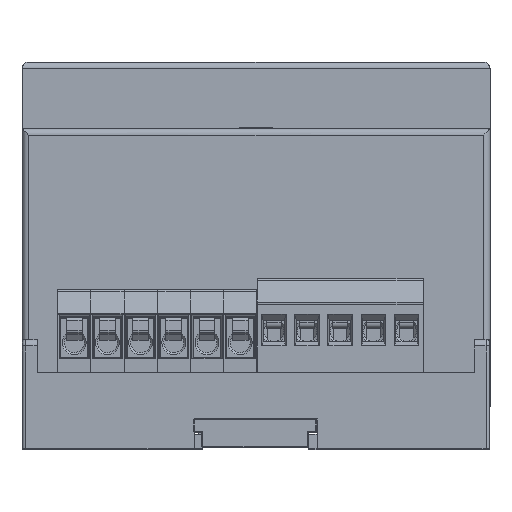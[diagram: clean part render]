
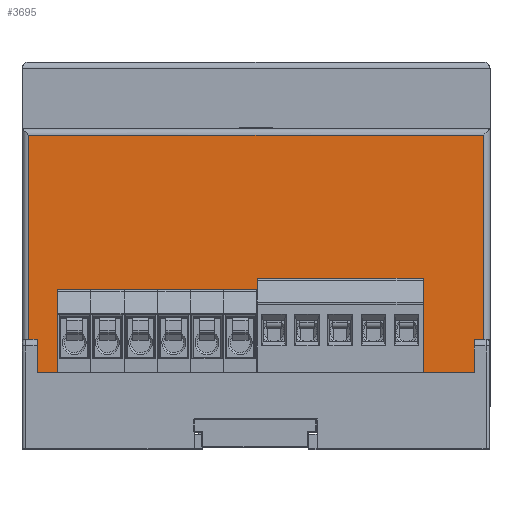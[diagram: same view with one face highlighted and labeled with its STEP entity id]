
A CAD part, top view. The second image highlights one B-rep face of the part: STEP entity #3695.
In plain terms, the highlighted planar face has unit normal (0, 0, 1).
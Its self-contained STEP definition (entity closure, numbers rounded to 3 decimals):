
#1536 = ORIENTED_EDGE ( 'NONE', *, *, #18056, .T. ) ;
#3574 = CARTESIAN_POINT ( 'NONE',  ( 1.5, -9., 0. ) ) ;
#3695 = ADVANCED_FACE ( 'NONE', ( #200549 ), #50364, .F. ) ;
#4474 = LINE ( 'NONE', #223883, #178225 ) ;
#9946 = DIRECTION ( 'NONE',  ( 1., 0., 0. ) ) ;
#10327 = LINE ( 'NONE', #204567, #152263 ) ;
#18056 = EDGE_CURVE ( 'NONE', #25531, #118730, #131753, .T. ) ;
#19963 = CARTESIAN_POINT ( 'NONE',  ( 69.5, 30.8, 0. ) ) ;
#20269 = AXIS2_PLACEMENT_3D ( 'NONE', #179845, #124129, #198490 ) ;
#21848 = VERTEX_POINT ( 'NONE', #192768 ) ;
#24740 = LINE ( 'NONE', #37317, #117550 ) ;
#25531 = VERTEX_POINT ( 'NONE', #186766 ) ;
#27021 = ORIENTED_EDGE ( 'NONE', *, *, #225393, .T. ) ;
#29689 = CARTESIAN_POINT ( 'NONE',  ( 69., -6.5, 0. ) ) ;
#29913 = VECTOR ( 'NONE', #40748, 1000. ) ;
#30640 = ORIENTED_EDGE ( 'NONE', *, *, #187016, .T. ) ;
#33120 = VECTOR ( 'NONE', #177963, 1000. ) ;
#36483 = EDGE_CURVE ( 'NONE', #118730, #42461, #166692, .T. ) ;
#37317 = CARTESIAN_POINT ( 'NONE',  ( 1., 31.8, 0. ) ) ;
#40748 = DIRECTION ( 'NONE',  ( 1., 0., 0. ) ) ;
#41963 = LINE ( 'NONE', #176886, #238960 ) ;
#42461 = VERTEX_POINT ( 'NONE', #215765 ) ;
#45334 = DIRECTION ( 'NONE',  ( 0., -1., 0. ) ) ;
#50364 = PLANE ( 'NONE',  #20269 ) ;
#53728 = CARTESIAN_POINT ( 'NONE',  ( 67.5, -5., 0. ) ) ;
#59759 = VERTEX_POINT ( 'NONE', #192681 ) ;
#64955 = CARTESIAN_POINT ( 'NONE',  ( 70.5, -9., 0. ) ) ;
#68888 = CARTESIAN_POINT ( 'NONE',  ( 0., 30.8, 0. ) ) ;
#69752 = EDGE_CURVE ( 'NONE', #226305, #234300, #232691, .T. ) ;
#86412 = CARTESIAN_POINT ( 'NONE',  ( 1., -9., 0. ) ) ;
#91665 = VECTOR ( 'NONE', #45334, 1000. ) ;
#103564 = CARTESIAN_POINT ( 'NONE',  ( 69.5, 31.8, 0. ) ) ;
#105403 = CARTESIAN_POINT ( 'NONE',  ( 69., -9., 0. ) ) ;
#117550 = VECTOR ( 'NONE', #222712, 1000. ) ;
#118730 = VERTEX_POINT ( 'NONE', #19963 ) ;
#119046 = EDGE_CURVE ( 'NONE', #21848, #59759, #41963, .T. ) ;
#119188 = CARTESIAN_POINT ( 'NONE',  ( 69., -5., 0. ) ) ;
#120818 = VERTEX_POINT ( 'NONE', #105403 ) ;
#124129 = DIRECTION ( 'NONE',  ( 0., 0., -1. ) ) ;
#131549 = ORIENTED_EDGE ( 'NONE', *, *, #119046, .F. ) ;
#131753 = LINE ( 'NONE', #103564, #33120 ) ;
#131967 = VECTOR ( 'NONE', #183172, 1000. ) ;
#144114 = VERTEX_POINT ( 'NONE', #29689 ) ;
#152263 = VECTOR ( 'NONE', #223077, 1000. ) ;
#154599 = EDGE_LOOP ( 'NONE', ( #217020, #160259, #229200, #27021, #131549, #30640, #206786, #196064, #1536, #197487 ) ) ;
#158406 = LINE ( 'NONE', #119188, #91665 ) ;
#160259 = ORIENTED_EDGE ( 'NONE', *, *, #69752, .T. ) ;
#160933 = VECTOR ( 'NONE', #198409, 1000. ) ;
#164703 = EDGE_CURVE ( 'NONE', #144114, #120818, #158406, .T. ) ;
#166692 = LINE ( 'NONE', #68888, #160933 ) ;
#169480 = EDGE_CURVE ( 'NONE', #120818, #25531, #173721, .T. ) ;
#173721 = LINE ( 'NONE', #64955, #217114 ) ;
#176886 = CARTESIAN_POINT ( 'NONE',  ( 1.5, -5., 0. ) ) ;
#177465 = EDGE_CURVE ( 'NONE', #42461, #226305, #24740, .T. ) ;
#177963 = DIRECTION ( 'NONE',  ( 0., 1., 0. ) ) ;
#178225 = VECTOR ( 'NONE', #224680, 1000. ) ;
#179845 = CARTESIAN_POINT ( 'NONE',  ( 0., 31.8, 0. ) ) ;
#183172 = DIRECTION ( 'NONE',  ( 0.707, -0.707, 0. ) ) ;
#186766 = CARTESIAN_POINT ( 'NONE',  ( 69.5, -9., 0. ) ) ;
#187016 = EDGE_CURVE ( 'NONE', #21848, #144114, #224524, .T. ) ;
#192681 = CARTESIAN_POINT ( 'NONE',  ( 3., -5., 0. ) ) ;
#192768 = CARTESIAN_POINT ( 'NONE',  ( 67.5, -5., 0. ) ) ;
#195477 = DIRECTION ( 'NONE',  ( -1., 0., 0. ) ) ;
#196064 = ORIENTED_EDGE ( 'NONE', *, *, #169480, .T. ) ;
#197487 = ORIENTED_EDGE ( 'NONE', *, *, #36483, .T. ) ;
#198409 = DIRECTION ( 'NONE',  ( -1., 0., 0. ) ) ;
#198490 = DIRECTION ( 'NONE',  ( -1., 0., 0. ) ) ;
#200549 = FACE_OUTER_BOUND ( 'NONE', #154599, .T. ) ;
#204567 = CARTESIAN_POINT ( 'NONE',  ( 1.5, -6.5, 0. ) ) ;
#206786 = ORIENTED_EDGE ( 'NONE', *, *, #164703, .T. ) ;
#207392 = CARTESIAN_POINT ( 'NONE',  ( 1.5, -6.5, 0. ) ) ;
#215765 = CARTESIAN_POINT ( 'NONE',  ( 1., 30.8, 0. ) ) ;
#217020 = ORIENTED_EDGE ( 'NONE', *, *, #177465, .T. ) ;
#217114 = VECTOR ( 'NONE', #9946, 1000. ) ;
#222712 = DIRECTION ( 'NONE',  ( 0., -1., 0. ) ) ;
#223077 = DIRECTION ( 'NONE',  ( 0.707, 0.707, 0. ) ) ;
#223883 = CARTESIAN_POINT ( 'NONE',  ( 1.5, -5., 0. ) ) ;
#224524 = LINE ( 'NONE', #53728, #131967 ) ;
#224680 = DIRECTION ( 'NONE',  ( 0., -1., 0. ) ) ;
#225393 = EDGE_CURVE ( 'NONE', #232664, #59759, #10327, .T. ) ;
#225467 = EDGE_CURVE ( 'NONE', #232664, #234300, #4474, .T. ) ;
#226305 = VERTEX_POINT ( 'NONE', #86412 ) ;
#229200 = ORIENTED_EDGE ( 'NONE', *, *, #225467, .F. ) ;
#232664 = VERTEX_POINT ( 'NONE', #207392 ) ;
#232691 = LINE ( 'NONE', #3574, #29913 ) ;
#234300 = VERTEX_POINT ( 'NONE', #234931 ) ;
#234931 = CARTESIAN_POINT ( 'NONE',  ( 1.5, -9., 0. ) ) ;
#238960 = VECTOR ( 'NONE', #195477, 1000. ) ;
